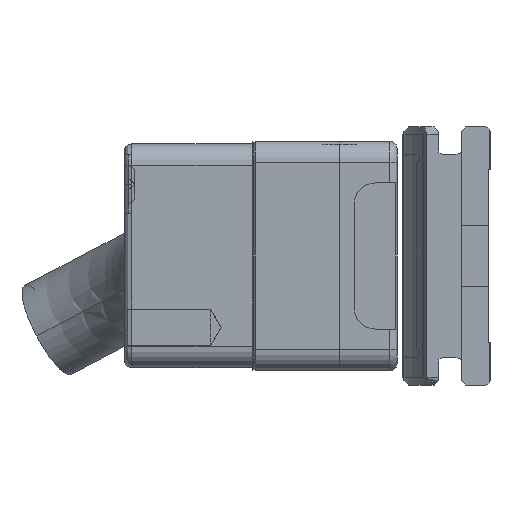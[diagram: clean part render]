
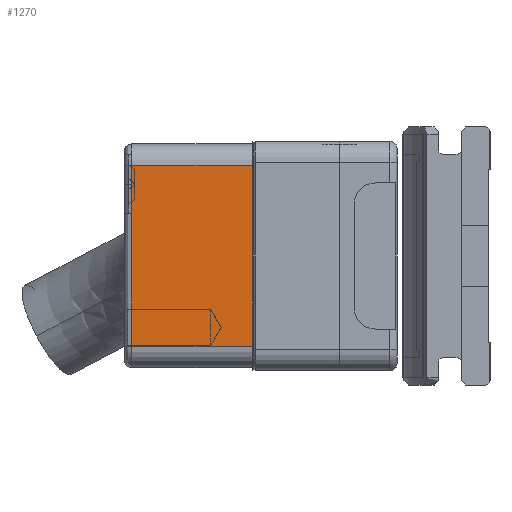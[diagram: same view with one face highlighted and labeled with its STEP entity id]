
A CAD part, left-side view. The second image highlights one B-rep face of the part: STEP entity #1270.
In plain terms, the highlighted planar face has unit normal (-1, 0, 0).
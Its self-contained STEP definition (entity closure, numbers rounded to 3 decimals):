
#57 = LINE ( 'NONE', #11827, #10504 ) ;
#727 = VECTOR ( 'NONE', #8757, 1000. ) ;
#1270 = ADVANCED_FACE ( 'NONE', ( #6375 ), #9032, .F. ) ;
#1881 = EDGE_CURVE ( 'NONE', #2525, #10278, #2107, .T. ) ;
#2107 = LINE ( 'NONE', #11786, #727 ) ;
#2227 = EDGE_CURVE ( 'NONE', #2525, #9734, #57, .T. ) ;
#2360 = AXIS2_PLACEMENT_3D ( 'NONE', #7180, #10347, #8082 ) ;
#2525 = VERTEX_POINT ( 'NONE', #12631 ) ;
#2617 = EDGE_CURVE ( 'NONE', #10852, #10278, #8776, .T. ) ;
#2877 = EDGE_CURVE ( 'NONE', #9734, #10852, #3294, .T. ) ;
#3294 = LINE ( 'NONE', #8231, #5388 ) ;
#3599 = ORIENTED_EDGE ( 'NONE', *, *, #2617, .T. ) ;
#5388 = VECTOR ( 'NONE', #6400, 1000. ) ;
#6375 = FACE_OUTER_BOUND ( 'NONE', #10121, .T. ) ;
#6400 = DIRECTION ( 'NONE',  ( 0., -1., 0. ) ) ;
#7031 = CARTESIAN_POINT ( 'NONE',  ( 0., 10.1, 1.708 ) ) ;
#7180 = CARTESIAN_POINT ( 'NONE',  ( 0., 19., 1.708 ) ) ;
#7259 = CARTESIAN_POINT ( 'NONE',  ( 0., 10.1, 14.325 ) ) ;
#7760 = DIRECTION ( 'NONE',  ( 0., 0., 1. ) ) ;
#8082 = DIRECTION ( 'NONE',  ( 0., 1., 0. ) ) ;
#8231 = CARTESIAN_POINT ( 'NONE',  ( 0., 19., 1.708 ) ) ;
#8245 = VECTOR ( 'NONE', #7760, 1000. ) ;
#8757 = DIRECTION ( 'NONE',  ( 0., -1., 0. ) ) ;
#8776 = LINE ( 'NONE', #10840, #8245 ) ;
#9032 = PLANE ( 'NONE',  #2360 ) ;
#9069 = ORIENTED_EDGE ( 'NONE', *, *, #2227, .T. ) ;
#9734 = VERTEX_POINT ( 'NONE', #11159 ) ;
#10121 = EDGE_LOOP ( 'NONE', ( #11811, #9069, #12415, #3599 ) ) ;
#10278 = VERTEX_POINT ( 'NONE', #7259 ) ;
#10347 = DIRECTION ( 'NONE',  ( 1., 0., 0. ) ) ;
#10504 = VECTOR ( 'NONE', #12527, 1000. ) ;
#10840 = CARTESIAN_POINT ( 'NONE',  ( 0., 10.1, 1.708 ) ) ;
#10852 = VERTEX_POINT ( 'NONE', #7031 ) ;
#11159 = CARTESIAN_POINT ( 'NONE',  ( 0., 18.5, 1.708 ) ) ;
#11786 = CARTESIAN_POINT ( 'NONE',  ( 0., 19., 14.325 ) ) ;
#11811 = ORIENTED_EDGE ( 'NONE', *, *, #1881, .F. ) ;
#11827 = CARTESIAN_POINT ( 'NONE',  ( 0., 18.5, 1.708 ) ) ;
#12415 = ORIENTED_EDGE ( 'NONE', *, *, #2877, .T. ) ;
#12527 = DIRECTION ( 'NONE',  ( 0., 0., -1. ) ) ;
#12631 = CARTESIAN_POINT ( 'NONE',  ( 0., 18.5, 14.325 ) ) ;
